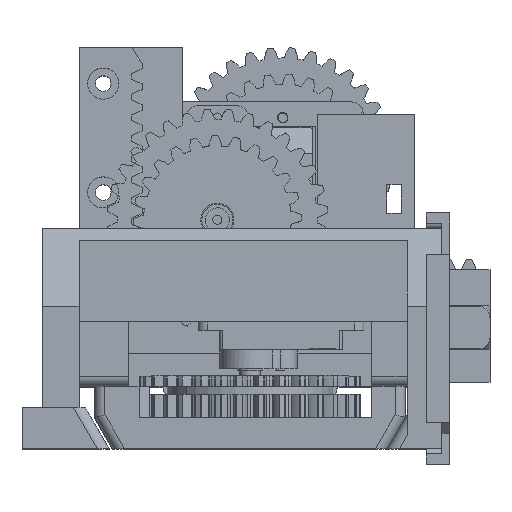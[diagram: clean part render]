
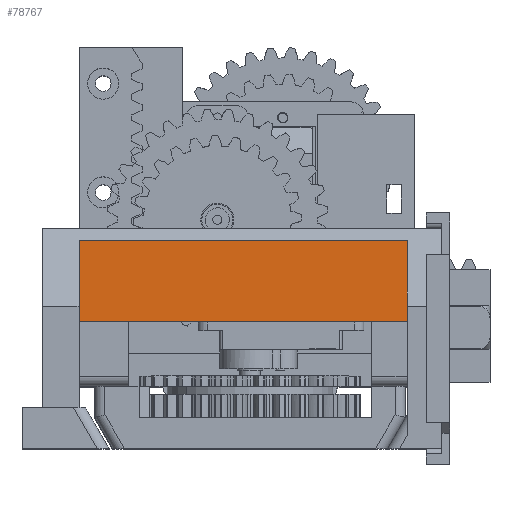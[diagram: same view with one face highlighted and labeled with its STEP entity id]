
A CAD part, top view. The second image highlights one B-rep face of the part: STEP entity #78767.
In plain terms, the highlighted planar face has unit normal (0, 0, 1).
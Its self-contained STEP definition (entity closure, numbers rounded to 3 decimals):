
#2384 = PLANE ( 'NONE',  #37584 ) ;
#6481 = ORIENTED_EDGE ( 'NONE', *, *, #6494, .T. ) ;
#6494 = EDGE_CURVE ( 'NONE', #42283, #55434, #20713, .T. ) ;
#9481 = VERTEX_POINT ( 'NONE', #56669 ) ;
#14627 = LINE ( 'NONE', #62019, #30444 ) ;
#14853 = DIRECTION ( 'NONE',  ( 1., 0., 0. ) ) ;
#17032 = DIRECTION ( 'NONE',  ( 0., -1., 0. ) ) ;
#18570 = VECTOR ( 'NONE', #58985, 1000. ) ;
#20713 = LINE ( 'NONE', #65789, #18570 ) ;
#22470 = DIRECTION ( 'NONE',  ( 0., 0., 1. ) ) ;
#24451 = LINE ( 'NONE', #43816, #58182 ) ;
#29657 = EDGE_LOOP ( 'NONE', ( #66845, #6481, #78047, #32640 ) ) ;
#30444 = VECTOR ( 'NONE', #14853, 1000. ) ;
#32640 = ORIENTED_EDGE ( 'NONE', *, *, #54435, .T. ) ;
#36340 = FACE_OUTER_BOUND ( 'NONE', #29657, .T. ) ;
#37584 = AXIS2_PLACEMENT_3D ( 'NONE', #83120, #22470, #49510 ) ;
#38504 = DIRECTION ( 'NONE',  ( 0., -1., 0. ) ) ;
#42093 = CARTESIAN_POINT ( 'NONE',  ( 30.3, 40.2, 12.3 ) ) ;
#42283 = VERTEX_POINT ( 'NONE', #42093 ) ;
#43816 = CARTESIAN_POINT ( 'NONE',  ( 30.3, 6.52, 12.3 ) ) ;
#45028 = LINE ( 'NONE', #78874, #80923 ) ;
#49510 = DIRECTION ( 'NONE',  ( 1., 0., 0. ) ) ;
#54435 = EDGE_CURVE ( 'NONE', #9481, #80387, #14627, .T. ) ;
#55434 = VERTEX_POINT ( 'NONE', #67492 ) ;
#56669 = CARTESIAN_POINT ( 'NONE',  ( -33., 24.5, 12.3 ) ) ;
#58182 = VECTOR ( 'NONE', #17032, 1000. ) ;
#58985 = DIRECTION ( 'NONE',  ( -1., 0., 0. ) ) ;
#62019 = CARTESIAN_POINT ( 'NONE',  ( -40., 24.5, 12.3 ) ) ;
#65789 = CARTESIAN_POINT ( 'NONE',  ( -40., 40.2, 12.3 ) ) ;
#66845 = ORIENTED_EDGE ( 'NONE', *, *, #73353, .F. ) ;
#67492 = CARTESIAN_POINT ( 'NONE',  ( -33., 40.2, 12.3 ) ) ;
#71480 = EDGE_CURVE ( 'NONE', #55434, #9481, #45028, .T. ) ;
#73353 = EDGE_CURVE ( 'NONE', #42283, #80387, #24451, .T. ) ;
#78047 = ORIENTED_EDGE ( 'NONE', *, *, #71480, .T. ) ;
#78767 = ADVANCED_FACE ( 'NONE', ( #36340 ), #2384, .T. ) ;
#78874 = CARTESIAN_POINT ( 'NONE',  ( -33., 0., 12.3 ) ) ;
#80387 = VERTEX_POINT ( 'NONE', #80817 ) ;
#80817 = CARTESIAN_POINT ( 'NONE',  ( 30.3, 24.5, 12.3 ) ) ;
#80923 = VECTOR ( 'NONE', #38504, 1000. ) ;
#83120 = CARTESIAN_POINT ( 'NONE',  ( -40., 24.5, 12.3 ) ) ;
